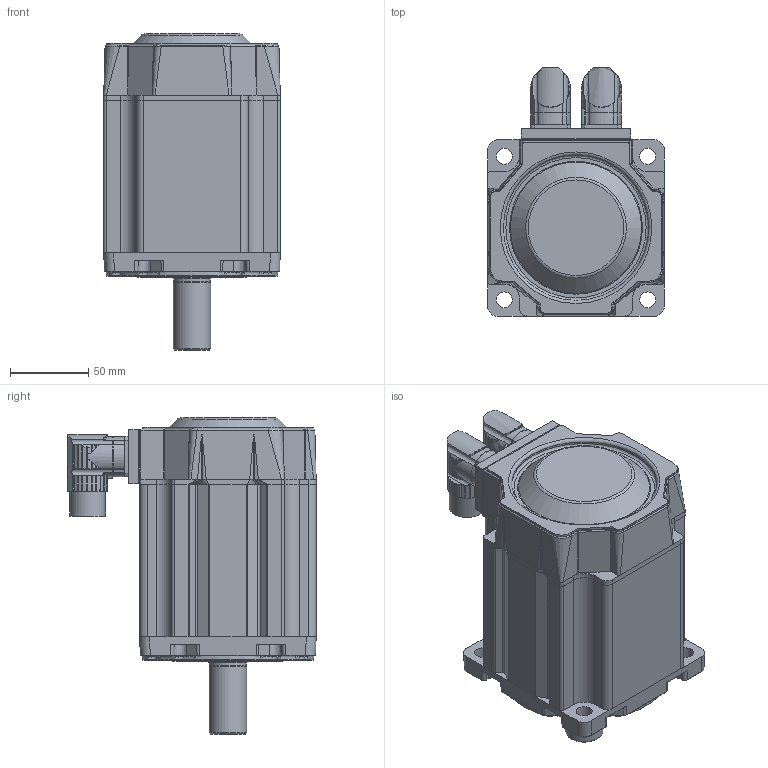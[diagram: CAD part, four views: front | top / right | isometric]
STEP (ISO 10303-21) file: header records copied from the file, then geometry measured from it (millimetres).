
FILE_DESCRIPTION((''),'2;1');
FILE_NAME('C:\CAD_work\Dummy_Modeling_Project_02-12-05\3D MODELS\MPP1152XXX_NPSN.stp','2005-12-20T17:08:26',('jevans'),(''),'Autodesk Inventor 10','Autodesk Inventor 10','');
FILE_SCHEMA(('AUTOMOTIVE_DESIGN { 1 0 10303 214 1 1 1 1 }'));
Length unit declared in the file: inch
Products named in the file (1): MPP115_MOTOR
Bounding box: 113.03 x 159.03 x 202.39 mm (x, y, z)
Volume: 1653430 mm3; surface area: 144995 mm2
Topology: 2 solids, 2 shells, 1017 faces, 2591 edges, 1624 vertices
Faces by surface type: bspline 355, cylinder 321, plane 240, cone 82, torus 17, sphere 2
Full cylindrical faces by diameter (mm): 1.143 x17, 2.032 x6, 2.794 x2, 19.05 x1, 19.685 x1, 22.86 x1, 23.647 x1, 24.003 x1, 24.994 x2, 31.75 x1, 47.549 x1, 54.61 x1, 61.468 x1, 62.001 x1, 62.027 x1, 62.268 x1, 65.634 x1, 69.85 x1, 71.12 x1, 93.066 x1, 109.995 x1
Entity records: 41462 total; most frequent: CARTESIAN_POINT 19150, ORIENTED_EDGE 4952, DIRECTION 4077, EDGE_CURVE 2476, VERTEX_POINT 1598, AXIS2_PLACEMENT_3D 1592, EDGE_LOOP 1168, FACE_OUTER_BOUND 1017
